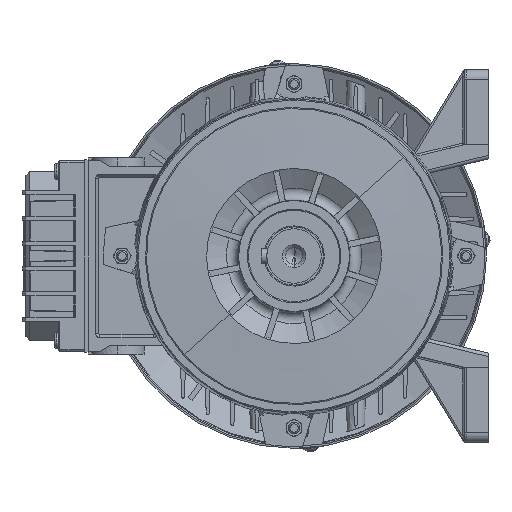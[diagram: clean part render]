
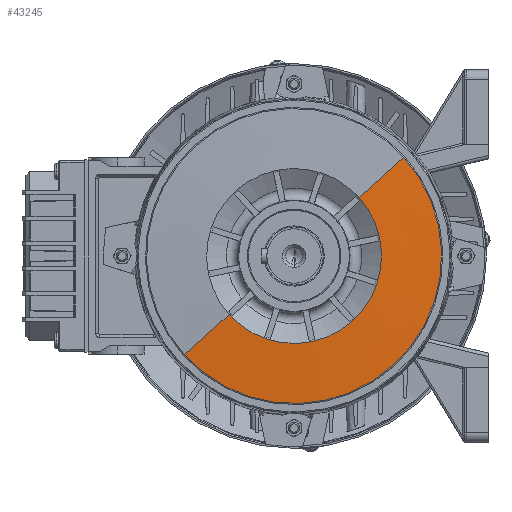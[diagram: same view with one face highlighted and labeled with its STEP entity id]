
A CAD part, left-side view. The second image highlights one B-rep face of the part: STEP entity #43245.
In plain terms, the highlighted conical face has half-angle 87 degrees and reference radius 75.931 mm.
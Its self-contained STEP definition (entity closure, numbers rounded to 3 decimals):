
#2644 = DIRECTION ( 'NONE',  ( 0., 0.052, 0.999 ) ) ;
#3723 = CIRCLE ( 'NONE', #70929, 45. ) ;
#5686 = EDGE_CURVE ( 'NONE', #11528, #86851, #100775, .T. ) ;
#6292 = DIRECTION ( 'NONE',  ( 0., 0.052, -0.999 ) ) ;
#11528 = VERTEX_POINT ( 'NONE', #105985 ) ;
#14081 = AXIS2_PLACEMENT_3D ( 'NONE', #30905, #91529, #39693 ) ;
#20747 = DIRECTION ( 'NONE',  ( 0., 1., 0. ) ) ;
#24206 = ORIENTED_EDGE ( 'NONE', *, *, #5686, .F. ) ;
#24407 = FACE_OUTER_BOUND ( 'NONE', #102582, .T. ) ;
#25581 = ORIENTED_EDGE ( 'NONE', *, *, #68962, .F. ) ;
#30905 = CARTESIAN_POINT ( 'NONE',  ( 0., 2.121, 0. ) ) ;
#39693 = DIRECTION ( 'NONE',  ( 0., 0., 1. ) ) ;
#43245 = ADVANCED_FACE ( 'NONE', ( #24407 ), #82692, .T. ) ;
#47372 = CARTESIAN_POINT ( 'NONE',  ( 0., 0.5, -45. ) ) ;
#55169 = VERTEX_POINT ( 'NONE', #81792 ) ;
#56620 = VECTOR ( 'NONE', #2644, 1000. ) ;
#59068 = AXIS2_PLACEMENT_3D ( 'NONE', #105084, #88039, #96406 ) ;
#62246 = ORIENTED_EDGE ( 'NONE', *, *, #82802, .T. ) ;
#63258 = CARTESIAN_POINT ( 'NONE',  ( 0., 2.121, 75.931 ) ) ;
#68962 = EDGE_CURVE ( 'NONE', #81412, #11528, #89489, .T. ) ;
#70929 = AXIS2_PLACEMENT_3D ( 'NONE', #72695, #20747, #81424 ) ;
#72695 = CARTESIAN_POINT ( 'NONE',  ( 0., 0.5, 0. ) ) ;
#81412 = VERTEX_POINT ( 'NONE', #47372 ) ;
#81424 = DIRECTION ( 'NONE',  ( 0., 0., 1. ) ) ;
#81792 = CARTESIAN_POINT ( 'NONE',  ( 0., 0.5, 45. ) ) ;
#82692 = CONICAL_SURFACE ( 'NONE', #59068, 75.931, 1.518 ) ;
#82802 = EDGE_CURVE ( 'NONE', #55169, #86851, #99989, .T. ) ;
#86851 = VERTEX_POINT ( 'NONE', #98355 ) ;
#88039 = DIRECTION ( 'NONE',  ( 0., 1., 0. ) ) ;
#88354 = ORIENTED_EDGE ( 'NONE', *, *, #94943, .T. ) ;
#89489 = LINE ( 'NONE', #110153, #107111 ) ;
#91529 = DIRECTION ( 'NONE',  ( 0., 1., 0. ) ) ;
#94943 = EDGE_CURVE ( 'NONE', #81412, #55169, #3723, .T. ) ;
#96406 = DIRECTION ( 'NONE',  ( 0., 0., 1. ) ) ;
#98355 = CARTESIAN_POINT ( 'NONE',  ( 0., 2.121, 75.931 ) ) ;
#99989 = LINE ( 'NONE', #63258, #56620 ) ;
#100775 = CIRCLE ( 'NONE', #14081, 75.931 ) ;
#102582 = EDGE_LOOP ( 'NONE', ( #25581, #88354, #62246, #24206 ) ) ;
#105084 = CARTESIAN_POINT ( 'NONE',  ( 0., 2.121, 0. ) ) ;
#105985 = CARTESIAN_POINT ( 'NONE',  ( 0., 2.121, -75.931 ) ) ;
#107111 = VECTOR ( 'NONE', #6292, 1000. ) ;
#110153 = CARTESIAN_POINT ( 'NONE',  ( 0., 2.121, -75.931 ) ) ;
